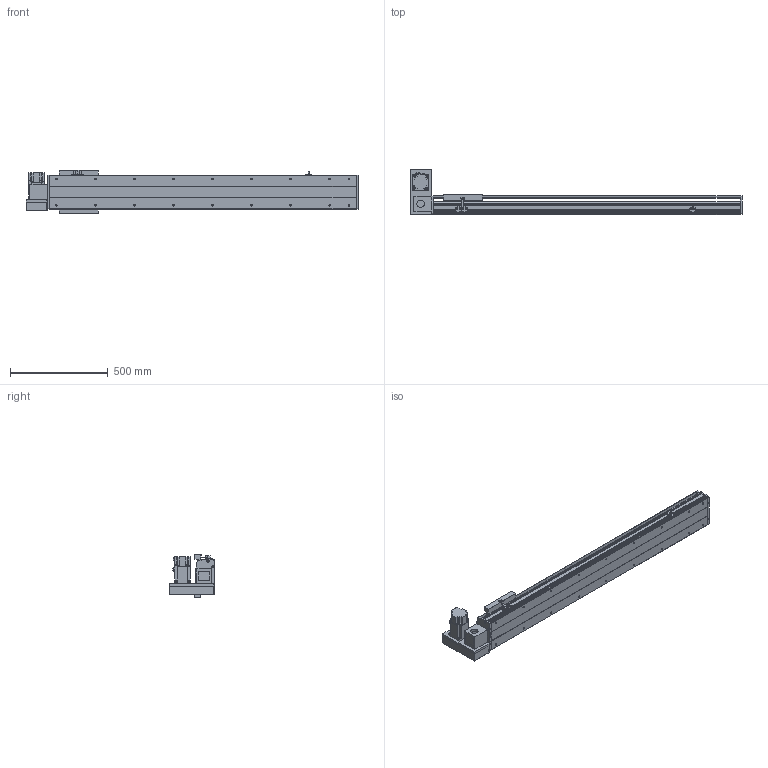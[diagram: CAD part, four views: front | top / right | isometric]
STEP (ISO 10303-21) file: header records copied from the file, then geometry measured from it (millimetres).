
FILE_DESCRIPTION(/* description */ ('STEP AP214'),/* implementation_level */ '2;1');
FILE_NAME(/* name */ 'PBS200-P40-S1200-LU-T75-C1-N(0)',/* time_stamp */ '2022-06-11T09:00:05+02:00',/* author */ ('License CC BY-ND 4.0'),/* organization */ ('CADENAS'),/* preprocessor_version */ 'ST-DEVELOPER v18.102',/* originating_system */ 'PARTsolutions',/* authorisation */ ' ');
FILE_SCHEMA (('AUTOMOTIVE_DESIGN {1 0 10303 214 3 1 1}'));
Length unit declared in the file: millimetre
Products named in the file (7): PBS200-P40-S1200-LU-T75-C1-N(0); PBS200_sensor; PBS200_plant; PBS200_sliser; T75-p1; PBS200T-LU_motors; PBS200-S1200()_body
Assembly tree (8 placements, depth 2):
  PBS200-P40-S1200-LU-T75-C1-N(0)
    PBS200_sensor  x3
    PBS200_plant
    PBS200_sliser
    T75-p1
    PBS200T-LU_motors
    PBS200-S1200()_body
Bounding box: 1700 x 231 x 221 mm (x, y, z)
Volume: 12486026.1 mm3; surface area: 2016539 mm2
Topology: 8 solids, 8 shells, 926 faces, 2384 edges, 1554 vertices
Faces by surface type: plane 576, cylinder 300, cone 50
Full cylindrical faces by diameter (mm): 2.459 x6, 3.242 x4, 4.5 x6, 4.917 x4, 5 x6, 6 x7, 6.6 x8, 6.647 x22, 8 x6, 10 x4, 12 x8, 38 x2, 40 x1, 70 x1
Entity records: 24701 total; most frequent: DIRECTION 4351, CARTESIAN_POINT 4210, ORIENTED_EDGE 3994, EDGE_CURVE 1997, AXIS2_PLACEMENT_3D 1519, VERTEX_POINT 1378, LINE 1313, VECTOR 1313
